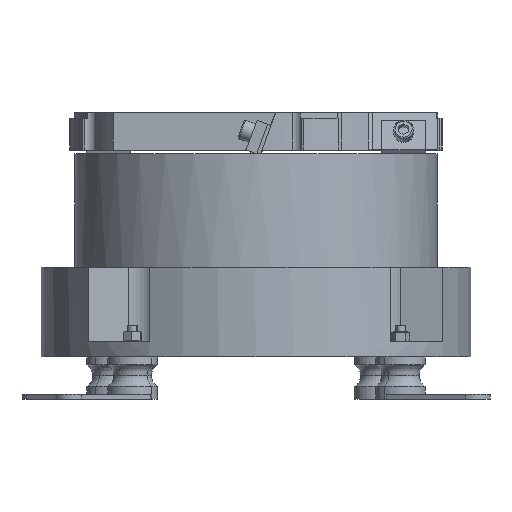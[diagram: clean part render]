
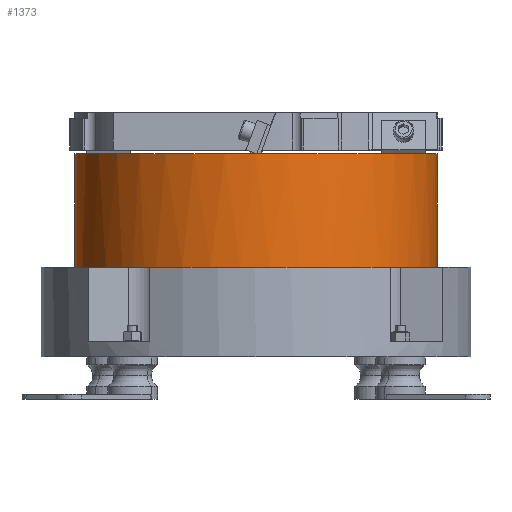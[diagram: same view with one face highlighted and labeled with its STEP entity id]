
A CAD part, front view. The second image highlights one B-rep face of the part: STEP entity #1373.
In plain terms, the highlighted cylindrical face has radius 145.5 mm (diameter 291 mm), a partial arc.
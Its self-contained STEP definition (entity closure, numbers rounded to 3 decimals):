
#1020=CYLINDRICAL_SURFACE('',#9474,145.5);
#1373=ADVANCED_FACE('NONE',(#1919),#1020,.T.);
#1919=FACE_OUTER_BOUND('',#2443,.T.);
#2443=EDGE_LOOP('',(#5014,#5015,#5016,#5017,#5018,#5019,#5020,#5021));
#2960=LINE('',#13821,#3578);
#2961=LINE('',#13833,#3579);
#3578=VECTOR('',#10897,1.);
#3579=VECTOR('',#10908,1.);
#5014=ORIENTED_EDGE('',*,*,#7673,.F.);
#5015=ORIENTED_EDGE('',*,*,#7784,.T.);
#5016=ORIENTED_EDGE('',*,*,#7679,.T.);
#5017=ORIENTED_EDGE('',*,*,#7787,.T.);
#5018=ORIENTED_EDGE('',*,*,#7788,.T.);
#5019=ORIENTED_EDGE('',*,*,#7789,.T.);
#5020=ORIENTED_EDGE('',*,*,#7785,.T.);
#5021=ORIENTED_EDGE('',*,*,#7786,.T.);
#6730=VERTEX_POINT('',#13819);
#6731=VERTEX_POINT('',#13820);
#6732=VERTEX_POINT('',#13822);
#6737=VERTEX_POINT('',#13832);
#6795=VERTEX_POINT('',#13991);
#6801=VERTEX_POINT('',#14022);
#6803=VERTEX_POINT('',#14028);
#6805=VERTEX_POINT('',#14035);
#7673=EDGE_CURVE('NONE',#6731,#6732,#2960,.T.);
#7679=EDGE_CURVE('NONE',#6730,#6737,#2961,.T.);
#7784=EDGE_CURVE('NONE',#6731,#6730,#8742,.T.);
#7785=EDGE_CURVE('NONE',#6803,#6795,#8743,.T.);
#7786=EDGE_CURVE('NONE',#6795,#6732,#8744,.T.);
#7787=EDGE_CURVE('NONE',#6737,#6801,#8745,.T.);
#7788=EDGE_CURVE('NONE',#6801,#6805,#8746,.T.);
#7789=EDGE_CURVE('NONE',#6805,#6803,#8747,.T.);
#8742=CIRCLE('',#9459,145.5);
#8743=CIRCLE('',#9461,145.5);
#8744=CIRCLE('',#9463,145.5);
#8745=CIRCLE('',#9468,145.5);
#8746=CIRCLE('',#9470,145.5);
#8747=CIRCLE('',#9472,145.5);
#9459=AXIS2_PLACEMENT_3D('',#14042,#11133,#11134);
#9461=AXIS2_PLACEMENT_3D('',#14044,#11137,#11138);
#9463=AXIS2_PLACEMENT_3D('',#14046,#11141,#11142);
#9468=AXIS2_PLACEMENT_3D('',#14051,#11151,#11152);
#9470=AXIS2_PLACEMENT_3D('',#14053,#11155,#11156);
#9472=AXIS2_PLACEMENT_3D('',#14055,#11159,#11160);
#9474=AXIS2_PLACEMENT_3D('',#14057,#11163,#11164);
#10897=DIRECTION('',(0.,0.,-1.));
#10908=DIRECTION('',(0.,0.,-1.));
#11133=DIRECTION('',(0.,0.,-1.));
#11134=DIRECTION('',(-1.,0.,0.));
#11137=DIRECTION('',(0.,0.,1.));
#11138=DIRECTION('',(-1.,0.,0.));
#11141=DIRECTION('',(0.,0.,1.));
#11142=DIRECTION('',(-1.,0.,0.));
#11151=DIRECTION('',(0.,0.,1.));
#11152=DIRECTION('',(-1.,0.,0.));
#11155=DIRECTION('',(0.,0.,1.));
#11156=DIRECTION('',(-1.,0.,0.));
#11159=DIRECTION('',(0.,0.,1.));
#11160=DIRECTION('',(-1.,0.,0.));
#11163=DIRECTION('',(0.,0.,-1.));
#11164=DIRECTION('',(-1.,0.,0.));
#13819=CARTESIAN_POINT('',(-233.418,9.65,65.));
#13820=CARTESIAN_POINT('',(57.582,9.65,65.));
#13821=CARTESIAN_POINT('',(57.582,9.65,65.));
#13822=CARTESIAN_POINT('',(57.582,9.65,-26.));
#13832=CARTESIAN_POINT('',(-233.418,9.65,-26.));
#13833=CARTESIAN_POINT('',(-233.418,9.65,65.));
#13991=CARTESIAN_POINT('',(33.505,-70.516,-26.));
#14022=CARTESIAN_POINT('',(-195.271,-88.561,-26.));
#14028=CARTESIAN_POINT('',(10.294,-97.703,-26.));
#14035=CARTESIAN_POINT('',(-168.084,-111.773,-26.));
#14042=CARTESIAN_POINT('',(-87.918,9.65,65.));
#14044=CARTESIAN_POINT('',(-87.918,9.65,-26.));
#14046=CARTESIAN_POINT('',(-87.918,9.65,-26.));
#14051=CARTESIAN_POINT('',(-87.918,9.65,-26.));
#14053=CARTESIAN_POINT('',(-87.918,9.65,-26.));
#14055=CARTESIAN_POINT('',(-87.918,9.65,-26.));
#14057=CARTESIAN_POINT('',(-87.918,9.65,65.));
